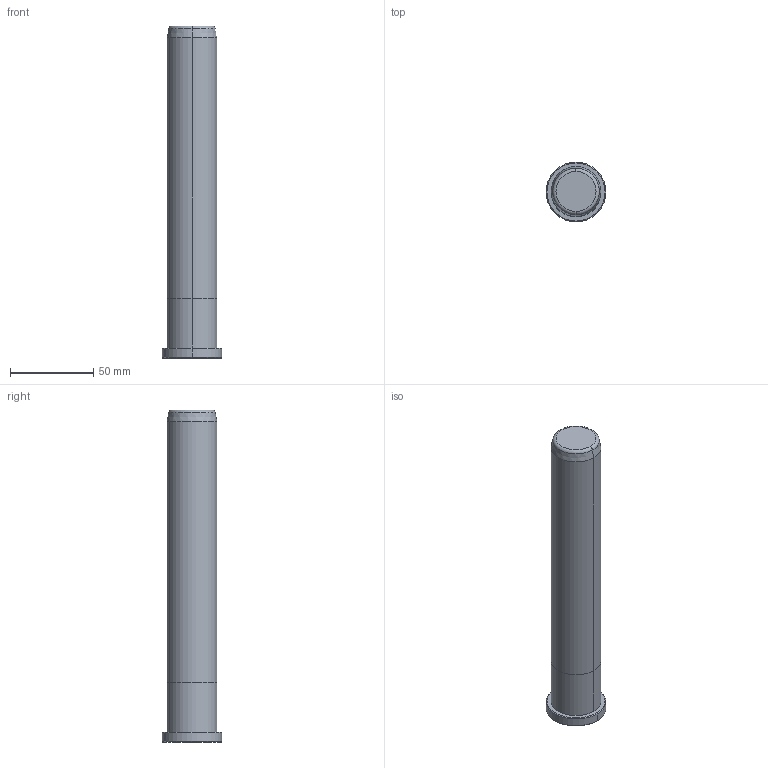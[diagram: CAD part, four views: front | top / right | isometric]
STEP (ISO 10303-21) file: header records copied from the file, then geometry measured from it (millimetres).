
FILE_DESCRIPTION((''),'2;1');
FILE_NAME('B82830200','2018-01-22T',('MANU'),(''),'PRO/ENGINEER BY PARAMETRIC TECHNOLOGY CORPORATION, 2012130','PRO/ENGINEER BY PARAMETRIC TECHNOLOGY CORPORATION, 2012130','');
FILE_SCHEMA(('CONFIG_CONTROL_DESIGN'));
Length unit declared in the file: millimetre
Products named in the file (1): B82830200
Bounding box: 36 x 36 x 200 mm (x, y, z)
Volume: 142794.4 mm3; surface area: 20754.3 mm2
Topology: 1 solids, 1 shells, 18 faces, 34 edges, 20 vertices
Faces by surface type: cone 6, cylinder 6, plane 4, torus 2
Entity records: 494 total; most frequent: DIRECTION 92, CARTESIAN_POINT 72, ORIENTED_EDGE 68, AXIS2_PLACEMENT_3D 40, EDGE_CURVE 34, CIRCLE 22, VERTEX_POINT 20, EDGE_LOOP 20
